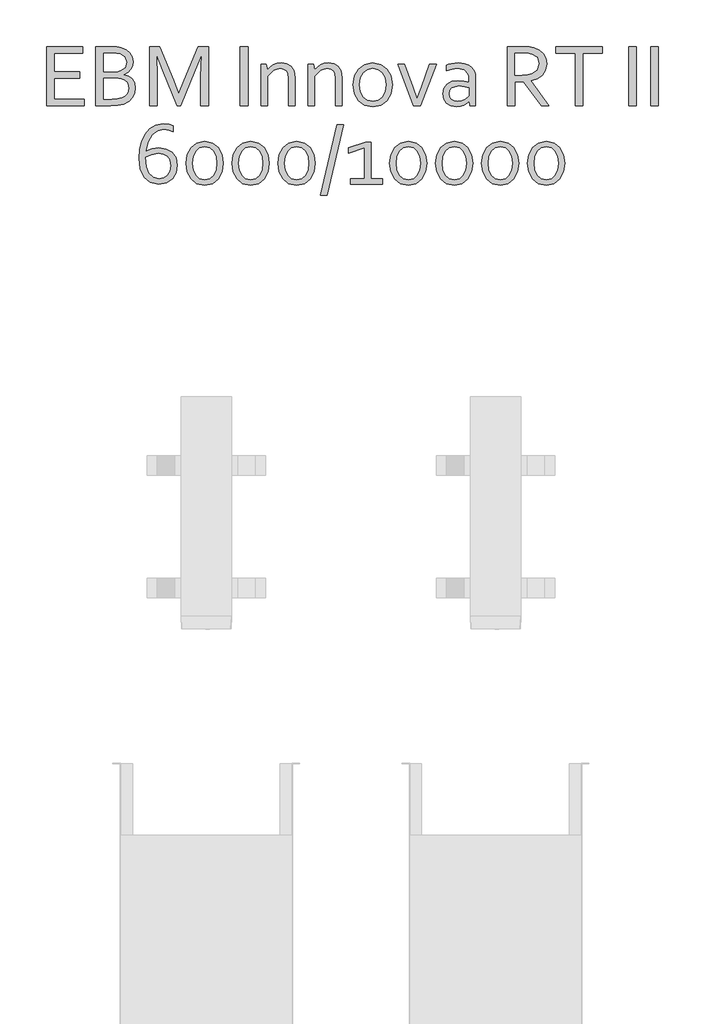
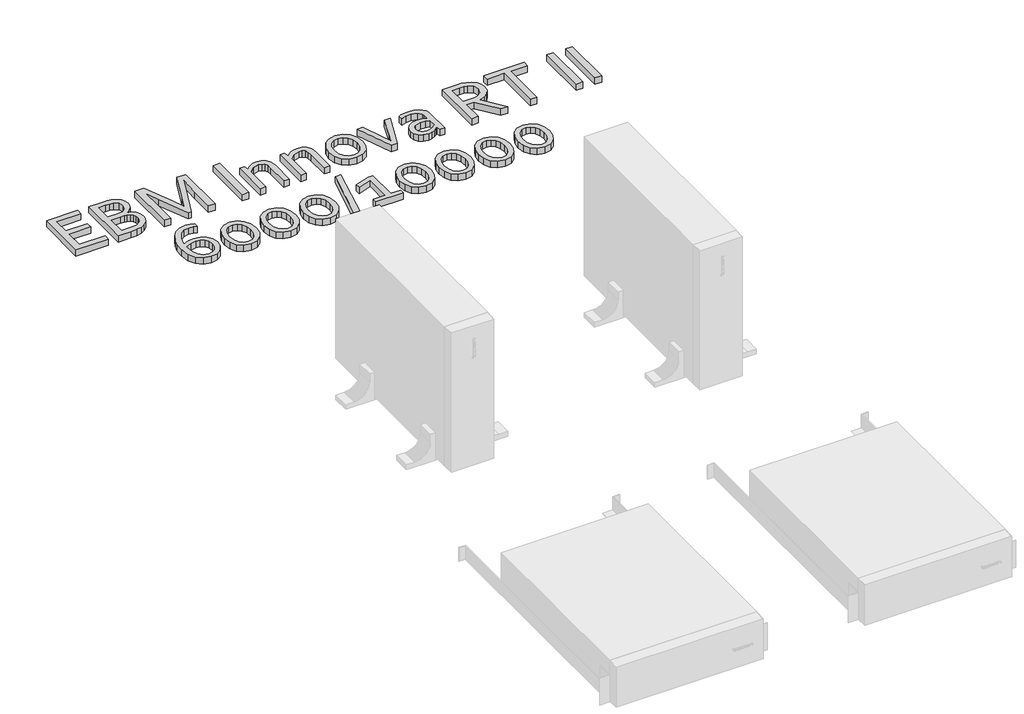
# One storey, part 5 of 10: 1 proxy.
"""IFC4 building model written with IfcOpenShell, lengths in millimetres."""

from ifc_helpers import new_model, si_unit, origin, origin_with_axes, place, context, project, spatial, polyline, outline, extrude, element, save

model = new_model("IFC4")

# Units and contexts
model_context = context("Model", 3, world=origin())
ifc_project = project(units=[si_unit("LENGTHUNIT", "METRE", prefix="MILLI")], contexts=[model_context])

# Site, building, storey
site = spatial("IfcSite", under=ifc_project)
building = spatial("IfcBuilding", under=site)
storey = spatial("IfcBuildingStorey", under=building, Name="Этаж 01", Elevation=0.0)

# Proxy
placement = place(None, origin())
element("IfcBuildingElementProxy", 1, Name="150 мм Corbel", ObjectType="150 мм Corbel", at=placement, inside=storey, context=model_context, shape_type="SweptSolid", body=[
    extrude(outline(polyline([(8103.2939989, -7548.6877316), (8180.207156, -7548.6877316), (8180.207156, -7565.4878752), (8083.6938314, -7565.4878752), (8083.6938314, -7414.2865833), (8176.0508705, -7414.2865833), (8176.0508705, -7431.0867269), (8103.2939989, -7431.0867269), (8103.2939989, -7478.6871335), (8168.0008017, -7478.6871335), (8168.0008017, -7495.4872771), (8103.2939989, -7495.4872771), (8103.2939989, -7548.6877316)])), origin_with_axes(), (0.0, 0.0, 1.0), 20.0),
    extrude(outline(polyline([(8281.0080172, -7486.1246971), (8293.4987489, -7490.1278563), (8302.9050793, -7497.1497913), (8308.6363783, -7507.3217532), (8310.4957692, -7520.7749931), (8308.9863813, -7532.0407144), (8303.9550883, -7543.4814371), (8294.7237594, -7553.7190246), (8280.5705135, -7561.37534), (8266.1766405, -7564.5691173), (8247.1889783, -7565.4878752), (8209.6949079, -7565.4878752), (8209.6949079, -7414.2865833), (8246.1389693, -7414.2865833), (8255.2171719, -7414.4615848), (8262.7422362, -7414.9647141), (8269.1297907, -7415.7959712), (8274.7079634, -7416.9553561), (8287.1768199, -7422.1616506), (8296.7144014, -7430.0148427), (8302.7738282, -7440.3836813), (8304.8957213, -7453.0056641), (8303.6050853, -7463.4838786), (8299.4487998, -7472.7370827), (8292.0549866, -7480.3277726), (8281.0080172, -7486.1246971)]), holes=[polyline([(8256.4203071, -7478.6871335), (8265.4547593, -7478.1840042), (8272.3454432, -7476.7183667), (8284.3330456, -7468.1214183), (8288.0955778, -7454.3181753), (8284.1580441, -7440.9961865), (8271.8204387, -7433.2742455), (8262.1953565, -7431.5898561), (8249.2889962, -7431.0867269), (8229.2950754, -7431.0867269), (8229.2950754, -7478.6871335), (8256.4203071, -7478.6871335)]), polyline([(8229.2950754, -7495.4872771), (8229.2950754, -7548.6877316), (8250.6015074, -7548.6877316), (8264.6891278, -7547.9439753), (8275.714222, -7545.5814551), (8284.1580441, -7541.1845425), (8289.7362168, -7535.2344917), (8292.7768678, -7528.3219326), (8293.6956256, -7520.9062443), (8292.7112422, -7512.7030492), (8289.5174649, -7505.8342405), (8283.67679, -7500.5185701), (8274.664213, -7496.9747898), (8267.2266495, -7495.8372801), (8256.9015613, -7495.4872771), (8229.2950754, -7495.4872771)])]), origin_with_axes(), (0.0, 0.0, 1.0), 20.0),
    extrude(outline(polyline([(8426.7405123, -7565.4878752), (8418.2529398, -7565.4878752), (8381.2401236, -7475.1871036), (8365.839992, -7434.6305071), (8366.4962476, -7492.3810005), (8366.4962476, -7565.4878752), (8346.8960802, -7565.4878752), (8346.8960802, -7414.2865833), (8373.3650563, -7414.2865833), (8408.8028591, -7499.8185641), (8422.1904735, -7535.2126165), (8436.1468427, -7499.8185641), (8471.6283958, -7414.2865833), (8498.097372, -7414.2865833), (8498.097372, -7565.4878752), (8478.4972045, -7565.4878752), (8478.4972045, -7492.3810005), (8480.072218, -7434.6305071), (8463.7533286, -7475.1871036), (8426.7405123, -7565.4878752)])), origin_with_axes(), (0.0, 0.0, 1.0), 20.0),
    extrude(outline(polyline([(8579.2980658, -7565.4878752), (8579.2980658, -7414.2865833), (8598.8982332, -7414.2865833), (8598.8982332, -7565.4878752), (8579.2980658, -7565.4878752)])), origin_with_axes(), (0.0, 0.0, 1.0), 20.0),
    extrude(outline(polyline([(8649.2111631, -7473.8745924), (8655.9268455, -7467.0057837), (8663.7800376, -7461.3838607), (8673.2957439, -7457.6213286), (8684.5614651, -7456.2869422), (8698.1678314, -7458.2994594), (8709.1710504, -7464.7963899), (8716.5648635, -7476.4996149), (8719.2992619, -7494.2622666), (8719.2992619, -7565.4878752), (8702.4991184, -7565.4878752), (8702.4991184, -7496.4060349), (8701.1537944, -7484.4457765), (8697.1178224, -7476.3902389), (8690.5115159, -7471.8128561), (8681.4551886, -7470.2870618), (8663.9112887, -7475.5152314), (8649.2986638, -7489.8872292), (8649.2986638, -7565.4878752), (8632.4985203, -7565.4878752), (8632.4985203, -7459.0869661), (8645.8423843, -7459.0869661), (8649.2111631, -7473.8745924)])), origin_with_axes(), (0.0, 0.0, 1.0), 20.0),
    extrude(outline(polyline([(8769.6121918, -7473.8745924), (8776.3278741, -7467.0057837), (8784.1810662, -7461.3838607), (8793.6967725, -7457.6213286), (8804.9624938, -7456.2869422), (8818.56886, -7458.2994594), (8829.5720791, -7464.7963899), (8836.9658922, -7476.4996149), (8839.7002906, -7494.2622666), (8839.7002906, -7565.4878752), (8822.9001471, -7565.4878752), (8822.9001471, -7496.4060349), (8821.5548231, -7484.4457765), (8817.5188511, -7476.3902389), (8810.9125446, -7471.8128561), (8801.8562173, -7470.2870618), (8784.3123174, -7475.5152314), (8769.6996925, -7489.8872292), (8769.6996925, -7565.4878752), (8752.899549, -7565.4878752), (8752.899549, -7459.0869661), (8766.243413, -7459.0869661), (8769.6121918, -7473.8745924)])), origin_with_axes(), (0.0, 0.0, 1.0), 20.0),
    extrude(outline(polyline([(8968.501391, -7512.4186717), (8964.9357356, -7535.2344917), (8954.8293992, -7552.8877675), (8939.0136391, -7564.2628647), (8918.2322116, -7568.2878991), (8897.0351554, -7564.2628647), (8881.1537698, -7552.8877675), (8871.1568093, -7535.2344917), (8867.7005298, -7512.4186717), (8871.2661853, -7489.4278503), (8881.3725216, -7471.7308241), (8897.2539073, -7460.3119765), (8918.1009604, -7456.2869422), (8939.2105158, -7460.3119765), (8955.0919015, -7471.7308241), (8965.0451115, -7489.4278503), (8968.501391, -7512.4186717)]), holes=[polyline([(8951.7012475, -7512.4186717), (8949.2074762, -7494.546644), (8942.2292916, -7481.312156), (8931.5760756, -7473.0870857), (8918.1009604, -7470.2870618), (8904.6258453, -7473.0870857), (8893.9726293, -7481.312156), (8886.9944447, -7494.546644), (8884.5006734, -7512.4186717), (8886.9944447, -7530.1594483), (8894.0382548, -7543.3283108), (8904.7352212, -7551.4877555), (8918.2322116, -7554.2877795), (8931.6417011, -7551.4877555), (8942.2292916, -7543.3283108), (8949.2074762, -7530.1594483), (8951.7012475, -7512.4186717)])]), origin_with_axes(), (0.0, 0.0, 1.0), 20.0),
    extrude(outline(polyline([(9031.4144286, -7547.9002249), (9042.1770205, -7518.2374715), (9063.7022044, -7459.0869661), (9080.502348, -7459.0869661), (9040.4707559, -7565.4878752), (9022.5331027, -7565.4878752), (8982.5015107, -7459.0869661), (8999.3016542, -7459.0869661), (9020.695587, -7518.2374715), (9031.4144286, -7547.9002249)])), origin_with_axes(), (0.0, 0.0, 1.0), 20.0),
    extrude(outline(polyline([(9165.0280701, -7553.7190246), (9159.2311456, -7559.034695), (9151.8154572, -7563.7597354), (9142.6278787, -7567.0628886), (9131.9965379, -7568.2878991), (9117.9745431, -7566.0347548), (9107.0150745, -7559.4065732), (9099.8618884, -7548.7533572), (9097.3024915, -7534.5126105), (9100.1462658, -7520.5124909), (9108.1088338, -7510.0342764), (9120.424564, -7503.4060947), (9136.3278249, -7501.0873249), (9151.5748302, -7502.5748376), (9164.0655619, -7505.9436164), (9164.5030656, -7498.3310514), (9163.9343108, -7489.9966052), (9162.0092943, -7483.6309258), (9152.7342151, -7474.0714691), (9135.4528174, -7470.2870618), (9120.2495626, -7471.7745745), (9106.0963166, -7475.8871096), (9106.0963166, -7462.1932426), (9112.4182456, -7459.8088472), (9120.0964362, -7457.905706), (9128.6058839, -7456.7025707), (9137.5965858, -7456.2869422), (9152.2310858, -7457.7142981), (9163.84681, -7461.9963659), (9172.5093841, -7468.6300164), (9178.2844334, -7477.1121201), (9180.6032032, -7485.0090626), (9181.3032092, -7494.4810185), (9181.3032092, -7565.4878752), (9166.9093362, -7565.4878752), (9165.0280701, -7553.7190246)]), holes=[polyline([(9164.5030656, -7519.0687286), (9152.8873414, -7516.4655813), (9138.1215902, -7515.0874445), (9120.4683144, -7519.8562353), (9115.6940549, -7525.9047245), (9114.102635, -7534.5126105), (9115.6995237, -7543.2626853), (9120.0745611, -7549.4533632), (9126.6589923, -7553.0846442), (9134.7965618, -7554.2877795), (9145.3841523, -7552.6471404), (9154.0904767, -7548.731482), (9160.565532, -7544.1814431), (9164.5030656, -7540.6376628), (9164.5030656, -7519.0687286)])]), origin_with_axes(), (0.0, 0.0, 1.0), 20.0),
    extrude(outline(polyline([(9282.1040704, -7503.8873488), (9282.1040704, -7565.4878752), (9262.5039029, -7565.4878752), (9262.5039029, -7414.2865833), (9301.485486, -7414.2865833), (9318.2856295, -7415.0303397), (9330.9294876, -7417.3928599), (9344.8202312, -7423.2554099), (9354.9921932, -7432.1804862), (9361.2266214, -7443.9383992), (9363.3047642, -7458.2994594), (9360.3953643, -7474.880851), (9352.2140444, -7487.5684594), (9339.5920616, -7496.3622846), (9323.2731722, -7501.3935775), (9368.904812, -7565.4878752), (9349.3046446, -7565.4878752), (9303.8480062, -7503.8873488), (9282.1040704, -7503.8873488)]), holes=[polyline([(9282.1040704, -7431.0867269), (9282.1040704, -7487.0872053), (9299.7792214, -7487.0872053), (9313.8230914, -7486.5184504), (9324.2794307, -7484.4621829), (9338.6514285, -7474.9683518), (9343.7045967, -7457.9494564), (9338.8701804, -7442.111821), (9325.8106938, -7433.4929974), (9316.3824883, -7431.6554817), (9302.4042439, -7431.0867269), (9282.1040704, -7431.0867269)])]), origin_with_axes(), (0.0, 0.0, 1.0), 20.0),
    extrude(outline(polyline([(9455.7055536, -7565.4878752), (9436.1053862, -7565.4878752), (9436.1053862, -7431.0867269), (9386.0112082, -7431.0867269), (9386.0112082, -7414.2865833), (9505.7997316, -7414.2865833), (9505.7997316, -7431.0867269), (9455.7055536, -7431.0867269), (9455.7055536, -7565.4878752)])), origin_with_axes(), (0.0, 0.0, 1.0), 20.0),
    extrude(outline(polyline([(9573.3065584, -7565.4878752), (9573.3065584, -7414.2865833), (9592.9067259, -7414.2865833), (9592.9067259, -7565.4878752), (9573.3065584, -7565.4878752)])), origin_with_axes(), (0.0, 0.0, 1.0), 20.0),
    extrude(outline(polyline([(9629.3070369, -7565.4878752), (9629.3070369, -7414.2865833), (9648.9072043, -7414.2865833), (9648.9072043, -7565.4878752), (9629.3070369, -7565.4878752)])), origin_with_axes(), (0.0, 0.0, 1.0), 20.0),
    extrude(outline(polyline([(8370.871285, -7673.4875163), (8389.8808224, -7676.3312906), (8404.930951, -7684.7313624), (8414.7747851, -7698.4471046), (8418.2966902, -7717.2816405), (8415.0591625, -7736.9255583), (8405.6965825, -7752.2819395), (8390.7339547, -7762.2788999), (8370.6525331, -7765.8883058), (8349.3898515, -7761.228891), (8333.5740913, -7747.9069021), (8323.708382, -7726.9285979), (8320.2958529, -7699.3002368), (8322.0021175, -7676.5281673), (8327.099036, -7655.7686149), (8335.520983, -7638.0059632), (8347.6179613, -7624.1370947), (8363.4337215, -7615.1026425), (8382.5088844, -7611.88699), (8397.1871348, -7613.5495042), (8407.4903479, -7617.0932845), (8407.4903479, -7631.4871575), (8396.7496311, -7627.6152494), (8383.7338949, -7625.8871096), (8368.1150114, -7629.212138), (8354.3773941, -7639.4716007), (8343.8773044, -7657.0811261), (8337.8835032, -7682.3250918), (8354.2023926, -7675.8937869), (8370.871285, -7673.4875163)]), holes=[polyline([(8371.4400399, -7751.8881861), (8383.2526408, -7749.7006675), (8392.7902223, -7743.2693625), (8399.1777768, -7732.7692728), (8401.4965467, -7718.4629006), (8399.0465257, -7703.9596517), (8392.3745937, -7694.3564446), (8382.4870092, -7689.0845246), (8370.3900309, -7687.4876359), (8353.086758, -7690.3532854), (8337.0959964, -7697.3752204), (8339.5241422, -7721.4160508), (8346.6335779, -7738.4568214), (8357.5492962, -7748.5631577), (8371.4400399, -7751.8881861)])]), origin_with_axes(), (0.0, 0.0, 1.0), 20.0),
    extrude(outline(polyline([(8535.897695, -7712.8191023), (8532.6820425, -7734.9130411), (8523.3413377, -7752.6538177), (8508.4443354, -7764.4226682), (8488.384789, -7768.6883297), (8467.9314893, -7764.4226682), (8452.9688614, -7752.6538177), (8443.8031581, -7734.9130411), (8440.6968816, -7712.8191023), (8443.912534, -7690.5720373), (8453.2532389, -7672.7656351), (8468.2158667, -7660.9530342), (8488.2972883, -7656.6873728), (8508.6630873, -7660.9530342), (8523.6257151, -7672.7656351), (8532.7914184, -7690.5720373), (8535.897695, -7712.8191023)]), holes=[polyline([(8519.0975514, -7712.8191023), (8516.9100327, -7695.1658265), (8510.7193548, -7681.9313384), (8501.0505222, -7673.5968922), (8488.2972883, -7670.6874924), (8475.5440543, -7673.5968922), (8465.8314713, -7681.9313384), (8459.6407934, -7695.1658265), (8457.4970251, -7712.8191023), (8459.6845438, -7730.3192519), (8465.8752217, -7743.5099896), (8475.6096799, -7751.7788102), (8488.4285394, -7754.6882101), (8501.1598982, -7751.7788102), (8510.8287308, -7743.5099896), (8516.9537831, -7730.3192519), (8519.0975514, -7712.8191023)])]), origin_with_axes(), (0.0, 0.0, 1.0), 20.0),
    extrude(outline(polyline([(8653.4986997, -7712.8191023), (8650.2830472, -7734.9130411), (8640.9423424, -7752.6538177), (8626.0453402, -7764.4226682), (8605.9857938, -7768.6883297), (8585.532494, -7764.4226682), (8570.5698662, -7752.6538177), (8561.4041629, -7734.9130411), (8558.2978863, -7712.8191023), (8561.5135388, -7690.5720373), (8570.8542436, -7672.7656351), (8585.8168715, -7660.9530342), (8605.898293, -7656.6873728), (8626.264092, -7660.9530342), (8641.2267199, -7672.7656351), (8650.3924232, -7690.5720373), (8653.4986997, -7712.8191023)]), holes=[polyline([(8636.6985562, -7712.8191023), (8634.5110375, -7695.1658265), (8628.3203596, -7681.9313384), (8618.651527, -7673.5968922), (8605.898293, -7670.6874924), (8593.1450591, -7673.5968922), (8583.4324761, -7681.9313384), (8577.2417982, -7695.1658265), (8575.0980299, -7712.8191023), (8577.2855486, -7730.3192519), (8583.4762265, -7743.5099896), (8593.2106846, -7751.7788102), (8606.0295441, -7754.6882101), (8618.7609029, -7751.7788102), (8628.4297355, -7743.5099896), (8634.5547879, -7730.3192519), (8636.6985562, -7712.8191023)])]), origin_with_axes(), (0.0, 0.0, 1.0), 20.0),
    extrude(outline(polyline([(8771.0997045, -7712.8191023), (8767.884052, -7734.9130411), (8758.5433472, -7752.6538177), (8743.6463449, -7764.4226682), (8723.5867985, -7768.6883297), (8703.1334988, -7764.4226682), (8688.1708709, -7752.6538177), (8679.0051676, -7734.9130411), (8675.8988911, -7712.8191023), (8679.1145436, -7690.5720373), (8688.4552484, -7672.7656351), (8703.4178762, -7660.9530342), (8723.4992978, -7656.6873728), (8743.8650968, -7660.9530342), (8758.8277246, -7672.7656351), (8767.9934279, -7690.5720373), (8771.0997045, -7712.8191023)]), holes=[polyline([(8754.2995609, -7712.8191023), (8752.1120423, -7695.1658265), (8745.9213644, -7681.9313384), (8736.2525318, -7673.5968922), (8723.4992978, -7670.6874924), (8710.7460638, -7673.5968922), (8701.0334808, -7681.9313384), (8694.842803, -7695.1658265), (8692.6990346, -7712.8191023), (8694.8865533, -7730.3192519), (8701.0772312, -7743.5099896), (8710.8116894, -7751.7788102), (8723.6305489, -7754.6882101), (8736.3619077, -7751.7788102), (8746.0307403, -7743.5099896), (8752.1557926, -7730.3192519), (8754.2995609, -7712.8191023)])]), origin_with_axes(), (0.0, 0.0, 1.0), 20.0),
    extrude(outline(polyline([(8784.3123174, -7793.888545), (8826.9251814, -7614.6870139), (8843.5065731, -7614.6870139), (8800.893709, -7793.888545), (8784.3123174, -7793.888545)])), origin_with_axes(), (0.0, 0.0, 1.0), 20.0),
    extrude(outline(polyline([(8897.100781, -7751.8881861), (8897.100781, -7673.4875163), (8856.6316852, -7687.4876359), (8856.6316852, -7673.4875163), (8899.3758004, -7659.4873967), (8913.9009245, -7659.4873967), (8913.9009245, -7751.8881861), (8943.2574254, -7751.8881861), (8943.2574254, -7765.8883058), (8861.3129752, -7765.8883058), (8861.3129752, -7751.8881861), (8897.100781, -7751.8881861)])), origin_with_axes(), (0.0, 0.0, 1.0), 20.0),
    extrude(outline(polyline([(9056.7021446, -7712.8191023), (9053.4864921, -7734.9130411), (9044.1457873, -7752.6538177), (9029.2487851, -7764.4226682), (9009.1892387, -7768.6883297), (8988.7359389, -7764.4226682), (8973.7733111, -7752.6538177), (8964.6076078, -7734.9130411), (8961.5013312, -7712.8191023), (8964.7169837, -7690.5720373), (8974.0576885, -7672.7656351), (8989.0203164, -7660.9530342), (9009.1017379, -7656.6873728), (9029.4675369, -7660.9530342), (9044.4301648, -7672.7656351), (9053.5958681, -7690.5720373), (9056.7021446, -7712.8191023)]), holes=[polyline([(9039.9020011, -7712.8191023), (9037.7144824, -7695.1658265), (9031.5238045, -7681.9313384), (9021.8549719, -7673.5968922), (9009.1017379, -7670.6874924), (8996.348504, -7673.5968922), (8986.635921, -7681.9313384), (8980.4452431, -7695.1658265), (8978.3014748, -7712.8191023), (8980.4889935, -7730.3192519), (8986.6796714, -7743.5099896), (8996.4141295, -7751.7788102), (9009.232989, -7754.6882101), (9021.9643478, -7751.7788102), (9031.6331804, -7743.5099896), (9037.7582328, -7730.3192519), (9039.9020011, -7712.8191023)])]), origin_with_axes(), (0.0, 0.0, 1.0), 20.0),
    extrude(outline(polyline([(9174.3031494, -7712.8191023), (9171.0874969, -7734.9130411), (9161.7467921, -7752.6538177), (9146.8497898, -7764.4226682), (9126.7902434, -7768.6883297), (9106.3369437, -7764.4226682), (9091.3743158, -7752.6538177), (9082.2086125, -7734.9130411), (9079.102336, -7712.8191023), (9082.3179885, -7690.5720373), (9091.6586933, -7672.7656351), (9106.6213211, -7660.9530342), (9126.7027427, -7656.6873728), (9147.0685417, -7660.9530342), (9162.0311695, -7672.7656351), (9171.1968728, -7690.5720373), (9174.3031494, -7712.8191023)]), holes=[polyline([(9157.5030058, -7712.8191023), (9155.3154872, -7695.1658265), (9149.1248093, -7681.9313384), (9139.4559766, -7673.5968922), (9126.7027427, -7670.6874924), (9113.9495087, -7673.5968922), (9104.2369257, -7681.9313384), (9098.0462479, -7695.1658265), (9095.9024795, -7712.8191023), (9098.0899982, -7730.3192519), (9104.2806761, -7743.5099896), (9114.0151343, -7751.7788102), (9126.8339938, -7754.6882101), (9139.5653526, -7751.7788102), (9149.2341852, -7743.5099896), (9155.3592375, -7730.3192519), (9157.5030058, -7712.8191023)])]), origin_with_axes(), (0.0, 0.0, 1.0), 20.0),
    extrude(outline(polyline([(9291.9041541, -7712.8191023), (9288.6885017, -7734.9130411), (9279.3477969, -7752.6538177), (9264.4507946, -7764.4226682), (9244.3912482, -7768.6883297), (9223.9379484, -7764.4226682), (9208.9753206, -7752.6538177), (9199.8096173, -7734.9130411), (9196.7033408, -7712.8191023), (9199.9189932, -7690.5720373), (9209.259698, -7672.7656351), (9224.2223259, -7660.9530342), (9244.3037475, -7656.6873728), (9264.6695465, -7660.9530342), (9279.6321743, -7672.7656351), (9288.7978776, -7690.5720373), (9291.9041541, -7712.8191023)]), holes=[polyline([(9275.1040106, -7712.8191023), (9272.9164919, -7695.1658265), (9266.725814, -7681.9313384), (9257.0569814, -7673.5968922), (9244.3037475, -7670.6874924), (9231.5505135, -7673.5968922), (9221.8379305, -7681.9313384), (9215.6472526, -7695.1658265), (9213.5034843, -7712.8191023), (9215.691003, -7730.3192519), (9221.8816809, -7743.5099896), (9231.616139, -7751.7788102), (9244.4349986, -7754.6882101), (9257.1663573, -7751.7788102), (9266.83519, -7743.5099896), (9272.9602423, -7730.3192519), (9275.1040106, -7712.8191023)])]), origin_with_axes(), (0.0, 0.0, 1.0), 20.0),
    extrude(outline(polyline([(9409.5051589, -7712.8191023), (9406.2895064, -7734.9130411), (9396.9488016, -7752.6538177), (9382.0517993, -7764.4226682), (9361.992253, -7768.6883297), (9341.5389532, -7764.4226682), (9326.5763254, -7752.6538177), (9317.4106221, -7734.9130411), (9314.3043455, -7712.8191023), (9317.519998, -7690.5720373), (9326.8607028, -7672.7656351), (9341.8233306, -7660.9530342), (9361.9047522, -7656.6873728), (9382.2705512, -7660.9530342), (9397.2331791, -7672.7656351), (9406.3988824, -7690.5720373), (9409.5051589, -7712.8191023)]), holes=[polyline([(9392.7050154, -7712.8191023), (9390.5174967, -7695.1658265), (9384.3268188, -7681.9313384), (9374.6579862, -7673.5968922), (9361.9047522, -7670.6874924), (9349.1515183, -7673.5968922), (9339.4389353, -7681.9313384), (9333.2482574, -7695.1658265), (9331.1044891, -7712.8191023), (9333.2920078, -7730.3192519), (9339.4826856, -7743.5099896), (9349.2171438, -7751.7788102), (9362.0360033, -7754.6882101), (9374.7673621, -7751.7788102), (9384.4361947, -7743.5099896), (9390.561247, -7730.3192519), (9392.7050154, -7712.8191023)])]), origin_with_axes(), (0.0, 0.0, 1.0), 20.0),
])

save(model, "model.ifc")
